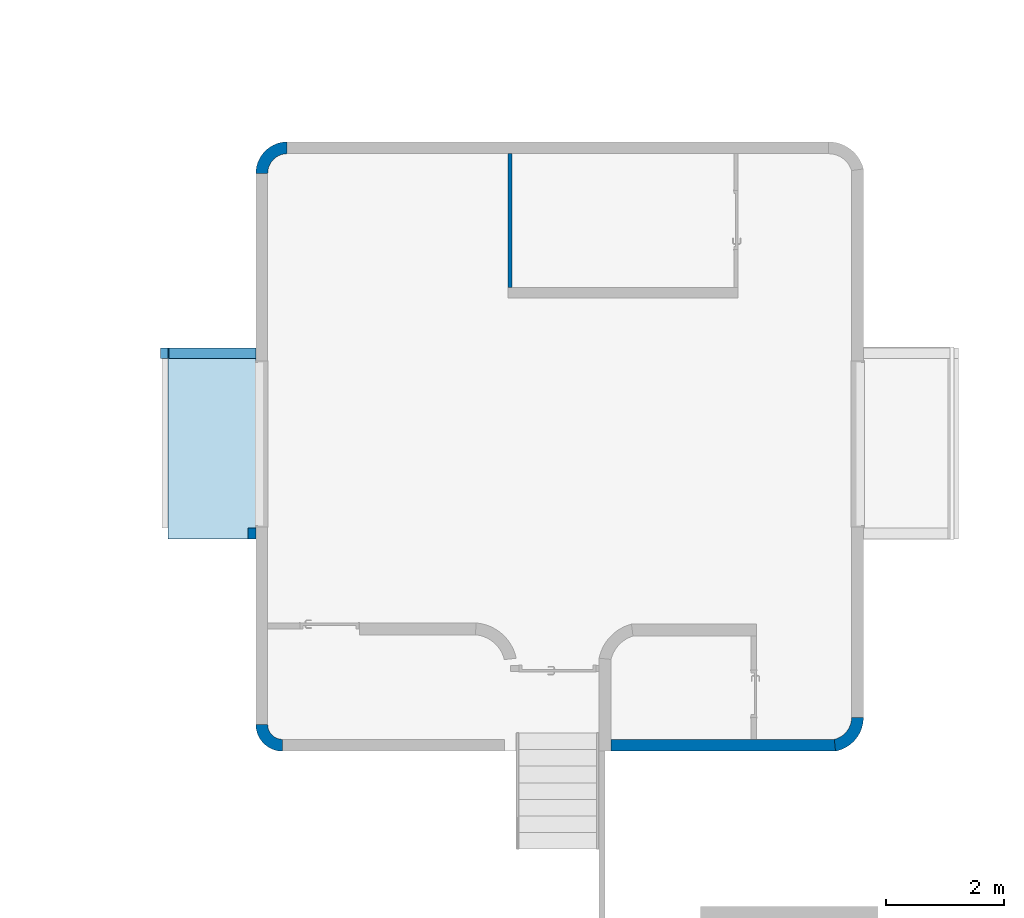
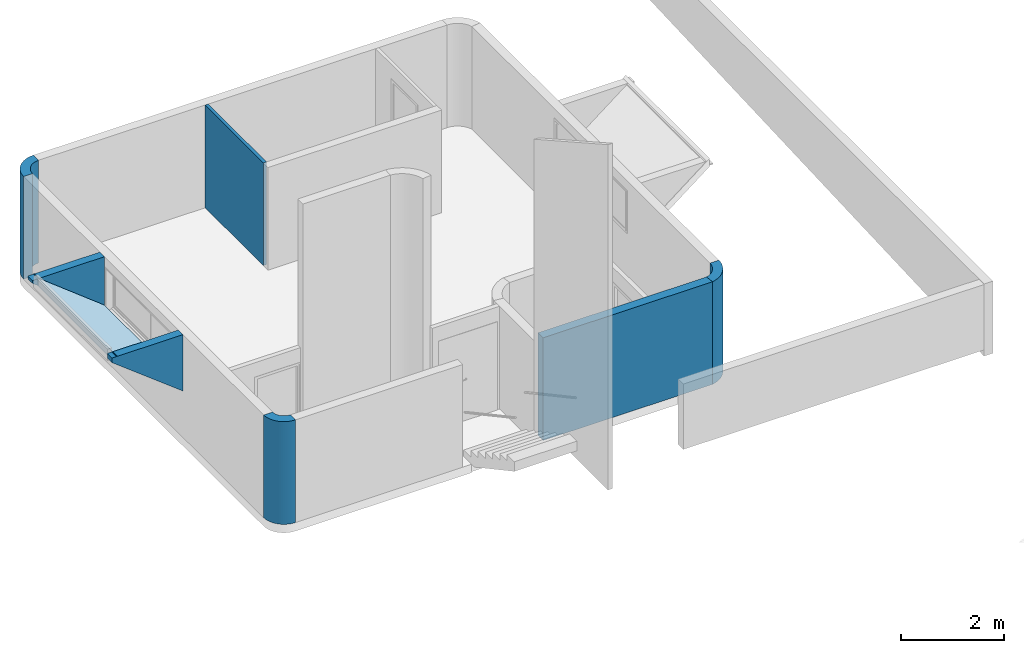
# One storey, part 1 of 3: 7 walls, 1 slab.
"""IFC2X3 building model written with IfcOpenShell, lengths in metres."""

from ifc_helpers import new_model, entity, si_unit, converted_unit, derived_unit, direction, frame, frame_2d, origin, place, context, subcontext, project, spatial, polyline, circle_curve, parameter, trimmed, segment, composite_curve, rectangle, outline, extrude, clip, halfspace, faceted_brep, material, layer, layer_set, layer_usage, type_object, element, save


model = new_model("IFC2X3")

# Units and contexts
model_context = context("Model", 3, precision=1e-05, world=origin(), true_north=direction((6.12303176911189e-17, 1.0)))
body_context = subcontext(model_context, "Body", "Model", "MODEL_VIEW")
ifc_project = project(units=[si_unit("LENGTHUNIT", "METRE"), si_unit("AREAUNIT", "SQUARE_METRE"), si_unit("VOLUMEUNIT", "CUBIC_METRE"), converted_unit("PLANEANGLEUNIT", "DEGREE", entity("IfcRatioMeasure", 0.0174532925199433), si_unit("PLANEANGLEUNIT", "RADIAN"), dimensions=[0, 0, 0, 0, 0, 0, 0]), si_unit("MASSUNIT", "GRAM", prefix="KILO"), derived_unit("MASSDENSITYUNIT", [(si_unit("MASSUNIT", "GRAM", prefix="KILO"), 1), (si_unit("LENGTHUNIT", "METRE"), -3)]), derived_unit("MOMENTOFINERTIAUNIT", [(si_unit("LENGTHUNIT", "METRE"), 4)]), si_unit("TIMEUNIT", "SECOND"), si_unit("FREQUENCYUNIT", "HERTZ"), si_unit("THERMODYNAMICTEMPERATUREUNIT", "DEGREE_CELSIUS"), derived_unit("THERMALTRANSMITTANCEUNIT", [(si_unit("MASSUNIT", "GRAM", prefix="KILO"), 1), (si_unit("THERMODYNAMICTEMPERATUREUNIT", "KELVIN"), -1), (si_unit("TIMEUNIT", "SECOND"), -3)]), derived_unit("VOLUMETRICFLOWRATEUNIT", [(si_unit("LENGTHUNIT", "METRE"), 3), (si_unit("TIMEUNIT", "SECOND"), -1)]), si_unit("ELECTRICCURRENTUNIT", "AMPERE"), si_unit("ELECTRICVOLTAGEUNIT", "VOLT"), si_unit("POWERUNIT", "WATT"), si_unit("FORCEUNIT", "NEWTON", prefix="KILO"), si_unit("ILLUMINANCEUNIT", "LUX"), si_unit("LUMINOUSFLUXUNIT", "LUMEN"), si_unit("LUMINOUSINTENSITYUNIT", "CANDELA"), derived_unit("USERDEFINED", [(si_unit("MASSUNIT", "GRAM", prefix="KILO"), -1), (si_unit("LENGTHUNIT", "METRE"), -2), (si_unit("TIMEUNIT", "SECOND"), 3), (si_unit("LUMINOUSFLUXUNIT", "LUMEN"), 1)]), derived_unit("LINEARVELOCITYUNIT", [(si_unit("LENGTHUNIT", "METRE"), 1), (si_unit("TIMEUNIT", "SECOND"), -1)]), si_unit("PRESSUREUNIT", "PASCAL"), derived_unit("USERDEFINED", [(si_unit("LENGTHUNIT", "METRE"), -2), (si_unit("MASSUNIT", "GRAM", prefix="KILO"), 1), (si_unit("TIMEUNIT", "SECOND"), -2)]), derived_unit("LINEARFORCEUNIT", [(si_unit("MASSUNIT", "GRAM", prefix="KILO"), 1), (si_unit("LENGTHUNIT", "METRE"), 1), (si_unit("TIMEUNIT", "SECOND"), -2), (si_unit("LENGTHUNIT", "METRE"), -1)]), derived_unit("PLANARFORCEUNIT", [(si_unit("MASSUNIT", "GRAM", prefix="KILO"), 1), (si_unit("LENGTHUNIT", "METRE"), 1), (si_unit("TIMEUNIT", "SECOND"), -2), (si_unit("LENGTHUNIT", "METRE"), -2)])], contexts=[model_context])

# Site, building, storey
site_placement = place(None, origin())
site = spatial("IfcSite", under=ifc_project, at=site_placement, Name="Default", CompositionType="ELEMENT")
building_placement = place(site_placement, origin())
building = spatial("IfcBuilding", under=site, at=building_placement, CompositionType="ELEMENT")
storey_placement = place(building_placement, frame((0.0, 0.0, -0.31669172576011)))
storey = spatial("IfcBuildingStorey", under=building, at=storey_placement, Name="SOUS SOL", CompositionType="ELEMENT", Elevation=-0.31669172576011)

# Slab
ifc_material_1 = material(Name="Béton, coulé sur place")
ifc_layer_1 = layer(ifc_material_1, 0.15)
ifc_layer_set_1 = layer_set([ifc_layer_1], Name="Sol:Béton sur place 150mm")
ifc_layer_usage_1 = layer_usage(ifc_layer_set_1, "AXIS3", "POSITIVE", 0.0)
slab_type = type_object("IfcSlabType", Name="Sol:Béton sur place 150mm", PredefinedType="FLOOR", material=ifc_layer_set_1)
slab_placement = place(storey_placement, origin())
element("IfcSlab", 1, at=slab_placement, inside=storey, type_object=slab_type, material=ifc_layer_usage_1, Name="Sol:Béton sur place 150mm", ObjectType="Sol:Béton sur place 150mm", PredefinedType="FLOOR", context=body_context, shape_type="Clipping", body=[
    clip(clip(extrude(rectangle(XDim=1.88449204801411, YDim=3.21999999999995, at=frame_2d((0.0, 5.55111512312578e-17), x_axis=(0.0, 1.0))), frame((-23.8806782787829, 20.9139517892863, 1.86715666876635), z_axis=(-0.615661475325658, 0.0, -0.788010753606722), x_axis=(0.0, 1.0, 0.0)), (0.0, 0.615661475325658, 0.788010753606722), 0.241561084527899), halfspace(frame((-22.5531782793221, 20.9139517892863, 0.639647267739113), z_axis=(-0.615661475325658, 0.0, -0.788010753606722), x_axis=(-0.788010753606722, 0.0, 0.615661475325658)), False)), halfspace(frame((-22.5531782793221, 20.9139517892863, 0.83), z_axis=(0.615661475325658, 0.0, 0.788010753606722), x_axis=(0.788010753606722, 0.0, -0.615661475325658)), False)),
])

# Walls
ifc_material_2 = material(Name="Mur par défaut")
ifc_layer_2 = layer(ifc_material_2, 0.2)
ifc_layer_set_2 = layer_set([ifc_layer_2], Name="Mur de base:@_Générique - Int. 200 mm")
ifc_layer_usage_2 = layer_usage(ifc_layer_set_2, "AXIS2", "NEGATIVE", 0.1)
wall_type_1 = type_object("IfcWallType", Name="Mur de base:@_Générique - Int. 200 mm", PredefinedType="STANDARD", material=ifc_layer_set_2)
wall_1_placement = place(storey_placement, frame((-17.1440938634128, 15.8189515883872, 0.0)))
element("IfcWallStandardCase", 2, at=wall_1_placement, inside=storey, type_object=wall_type_1, material=ifc_layer_usage_2, Name="Mur de base:@_Générique - Int. 200 mm", ObjectType="Mur de base:@_Générique - Int. 200 mm", context=body_context, shape_type="SweptSolid", body=[
    extrude(outline(polyline([(3.79072139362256, -0.100000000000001), (3.76938072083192, 0.0999999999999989), (2.45986278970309, 0.0999999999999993), (2.35986278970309, 0.0999999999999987), (0.0, 0.0999999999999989), (0.0, -0.100000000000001), (3.79072139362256, -0.100000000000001)])), origin(), (0.0, 0.0, 1.0), 2.43000000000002),
])
ifc_layer_usage_3 = layer_usage(ifc_layer_set_2, "AXIS2", "NEGATIVE", 0.1)
wall_2_placement = place(storey_placement, frame((-23.0381782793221, 16.1689518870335, 0.0), z_axis=(0.0, 0.0, 1.0), x_axis=(-1.0, -1.0697612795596e-09, 0.0)))
element("IfcWallStandardCase", 3, at=wall_2_placement, inside=storey, type_object=wall_type_1, material=ifc_layer_usage_3, Name="Mur de base:@_Générique - Int. 200 mm", ObjectType="Mur de base:@_Générique - Int. 200 mm", context=body_context, shape_type="SweptSolid", body=[
    extrude(outline(composite_curve([segment(trimmed(circle_curve(frame_2d((-0.350000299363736, 0.0), x_axis=(1.0, 0.0)), 0.250000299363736), [parameter(359.999999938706)], [parameter(89.9999999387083)], True, "PARAMETER"), False, "CONTINUOUS"), segment(polyline([(-0.0999999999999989, 0.0), (0.0999999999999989, 0.0)]), True, "CONTINUOUS"), segment(trimmed(circle_curve(frame_2d((-0.350000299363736, 0.0), x_axis=(1.0, 0.0)), 0.450000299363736), [parameter(359.999999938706)], [parameter(89.9999999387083)], True, "PARAMETER"), True, "CONTINUOUS"), segment(polyline([(-0.350000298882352, 0.450000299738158), (-0.3500002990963, 0.250000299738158)]), True, "CONTINUOUS")], self_intersect=False)), origin(), (0.0, 0.0, 1.0), 2.43000000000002),
])
ifc_layer_usage_4 = layer_usage(ifc_layer_set_2, "AXIS2", "NEGATIVE", 0.1)
wall_3_placement = place(storey_placement, frame((-22.6142524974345, 25.9043941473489, 0.0)))
element("IfcWallStandardCase", 4, at=wall_3_placement, inside=storey, type_object=wall_type_1, material=ifc_layer_usage_4, Name="Mur de base:@_Générique - Int. 200 mm", ObjectType="Mur de base:@_Générique - Int. 200 mm", context=body_context, shape_type="SweptSolid", body=[
    extrude(outline(composite_curve([segment(trimmed(circle_curve(frame_2d((0.00813074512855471, -0.431980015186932), x_axis=(1.0, 0.0)), 0.332056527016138), [parameter(91.3649438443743)], [parameter(180.0)], True, "PARAMETER"), False, "CONTINUOUS"), segment(polyline([(0.000220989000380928, -0.100017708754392), (-0.00188187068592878, 0.099982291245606)]), True, "CONTINUOUS"), segment(trimmed(circle_curve(frame_2d((0.00813074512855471, -0.431980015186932), x_axis=(1.0, 0.0)), 0.532056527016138), [parameter(91.07829613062)], [parameter(180.0)], True, "PARAMETER"), True, "CONTINUOUS"), segment(polyline([(-0.523925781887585, -0.431980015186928), (-0.323925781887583, -0.431980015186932)]), True, "CONTINUOUS")], self_intersect=False)), origin(), (0.0, 0.0, 1.0), 2.43000000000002),
])
ifc_layer_usage_5 = layer_usage(ifc_layer_set_2, "AXIS2", "POSITIVE", -0.1)
wall_4_placement = place(storey_placement, frame((-12.9828767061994, 16.2899094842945, 0.0), z_axis=(0.0, 0.0, 1.0), x_axis=(0.0, 1.0, 0.0)))
element("IfcWallStandardCase", 5, at=wall_4_placement, inside=storey, type_object=wall_type_1, material=ifc_layer_usage_5, Name="Mur de base:@_Générique - Int. 200 mm", ObjectType="Mur de base:@_Générique - Int. 200 mm", context=body_context, shape_type="SweptSolid", body=[
    extrude(outline(composite_curve([segment(trimmed(circle_curve(frame_2d((0.0, 0.481683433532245), x_axis=(1.0, 0.0)), 0.581683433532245), [parameter(191.019792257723)], [parameter(269.999999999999)], True, "PARAMETER"), True, "CONTINUOUS"), segment(polyline([(0.0, -0.100000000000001), (0.0, 0.0999999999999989)]), True, "CONTINUOUS"), segment(trimmed(circle_curve(frame_2d((0.0, 0.481683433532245), x_axis=(1.0, 0.0)), 0.381683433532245), [parameter(193.615004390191)], [parameter(269.999999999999)], True, "PARAMETER"), False, "CONTINUOUS"), segment(polyline([(-0.370957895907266, 0.391836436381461), (-0.570957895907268, 0.370495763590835)]), True, "CONTINUOUS")], self_intersect=False)), origin(), (0.0, 0.0, 1.0), 2.43000000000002),
])
ifc_layer_3 = layer(ifc_material_2, 0.07)
ifc_layer_set_3 = layer_set([ifc_layer_3], Name="Mur de base:@_Générique - Int. 70 mm")
ifc_layer_usage_6 = layer_usage(ifc_layer_set_3, "AXIS2", "NEGATIVE", 0.035)
wall_type_2 = type_object("IfcWallType", Name="Mur de base:@_Générique - Int. 70 mm", PredefinedType="STANDARD", material=ifc_layer_set_3)
wall_5_placement = place(storey_placement, frame((-18.8499693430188, 25.8043764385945, 0.0), z_axis=(0.0, 0.0, 1.0), x_axis=(0.0, -1.0, 0.0)))
element("IfcWallStandardCase", 6, at=wall_5_placement, inside=storey, type_object=wall_type_2, material=ifc_layer_usage_6, Name="Mur de base:@_Générique - Int. 70 mm", ObjectType="Mur de base:@_Générique - Int. 70 mm", context=body_context, shape_type="SweptSolid", body=[
    extrude(rectangle(XDim=2.25651289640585, YDim=0.0700000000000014, at=frame_2d((1.12825644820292, -2.60208521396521e-16), x_axis=(-1.0, 0.0))), origin(), (0.0, 0.0, 1.0), 2.43000000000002),
])
ifc_material_3 = material(Name="Maçonnerie - Voile BA")
ifc_layer_4 = layer(ifc_material_3, 0.18)
ifc_layer_set_4 = layer_set([ifc_layer_4], Name="Mur de base:Ext. Voile BA 180")
ifc_layer_usage_7 = layer_usage(ifc_layer_set_4, "AXIS2", "POSITIVE", -0.09)
wall_type_3 = type_object("IfcWallType", Name="Mur de base:Ext. Voile BA 180", PredefinedType="STANDARD", material=ifc_layer_set_4)
wall_6_placement = place(storey_placement, frame((-23.1381782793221, 19.3939517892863, 1.09593248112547), z_axis=(0.0, 0.0, 1.0), x_axis=(-1.0, 0.0, 0.0)))
element("IfcWallStandardCase", 7, at=wall_6_placement, inside=storey, type_object=wall_type_3, material=ifc_layer_usage_7, Name="Mur de base:Ext. Voile BA 180", ObjectType="Mur de base:Ext. Voile BA 180", context=body_context, shape_type="Clipping", body=[
    clip(extrude(rectangle(XDim=1.58499999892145, YDim=0.179999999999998, at=frame_2d((0.792499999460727, 2.77555756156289e-16), x_axis=(-1.0, 0.0))), origin(), (0.0, 0.0, 1.0), 1.33406751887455), halfspace(frame((1.58499999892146, -0.0900000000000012, 1.22618269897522), z_axis=(0.611887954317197, 0.0, -0.790944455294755), x_axis=(0.0, 1.0, 0.0)), False)),
])
wall_7_placement = place(storey_placement, frame((-24.747129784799, 22.4339517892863, 1.28705209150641)))
element("IfcWall", 8, at=wall_7_placement, inside=storey, type_object=wall_type_3, Name="Mur de base:Ext. Voile BA 180", ObjectType="Mur de base:Ext. Voile BA 180", context=body_context, shape_type="Brep", body=[
    faceted_brep([(0.0, -0.0899999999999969, 1.1429479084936), (0.0, -0.0899999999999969, 1.07324704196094), (0.123951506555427, -0.0900000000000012, 0.976405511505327), (0.123951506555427, -0.0900000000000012, 1.1429479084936), (0.0, 0.0900000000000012, 1.1429479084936), (0.0, 0.0900000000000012, 1.07324704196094), (0.123951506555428, 0.0899999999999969, 0.976405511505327), (0.123951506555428, 0.0899999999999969, 1.1429479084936)], [[[0, 1, 2, 3]], [[1, 0, 4, 5]], [[1, 5, 6, 2]], [[3, 2, 6, 7]], [[4, 0, 3, 7]], [[5, 4, 7, 6]]]),
    faceted_brep([(0.146044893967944, 0.0899999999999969, 1.1429479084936), (1.60895150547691, 0.0899999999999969, 1.1429479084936), (1.60895150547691, 0.0899999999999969, 0.0), (1.60895150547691, -0.0900000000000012, 1.1429479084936), (0.146044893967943, -0.0900000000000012, 1.1429479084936), (1.60895150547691, -0.0900000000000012, 0.0)], [[[0, 1, 2]], [[3, 1, 0, 4]], [[1, 3, 5, 2]], [[5, 4, 0, 2]], [[5, 3, 4]]]),
])

save(model, "model.ifc")
